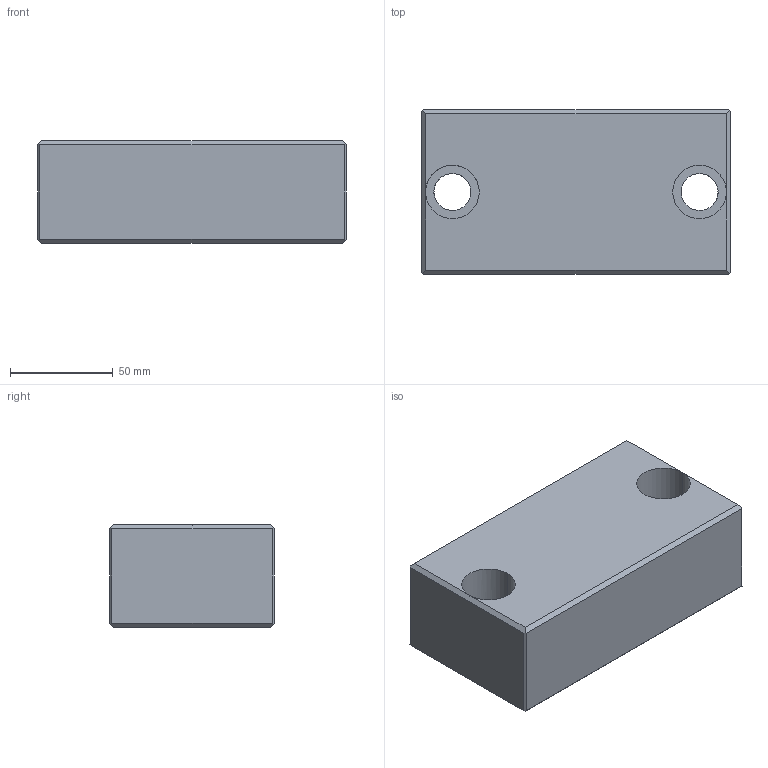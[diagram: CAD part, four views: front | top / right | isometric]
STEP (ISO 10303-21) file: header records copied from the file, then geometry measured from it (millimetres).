
FILE_DESCRIPTION(('CATIA V5 STEP Exchange'),'2;1');
FILE_NAME('C:\Users\Utente\Desktop\IO LAVORO\3D X SITO CF\X 3D SITO CF 27-09-2020\759\759+150+80+50+18.stp','2020-10-28T19:15:06+00:00',('none'),('none'),'CATIA Version 5 Release 20 GA (IN-10)','CATIA V5 STEP AP203','none');
FILE_SCHEMA(('CONFIG_CONTROL_DESIGN'));
Length unit declared in the file: millimetre
Products named in the file (1): 759+150+80+50+18
Bounding box: 150 x 80 x 50 mm (x, y, z)
Volume: 554948.3 mm3; surface area: 52043.8 mm2
Topology: 1 solids, 1 shells, 28 faces, 74 edges, 48 vertices
Faces by surface type: plane 20, cylinder 8
Entity records: 1001 total; most frequent: CARTESIAN_POINT 266, ORIENTED_EDGE 148, DIRECTION 125, EDGE_CURVE 74, VECTOR 58, LINE 58, VERTEX_POINT 48, AXIS2_PLACEMENT_3D 40
